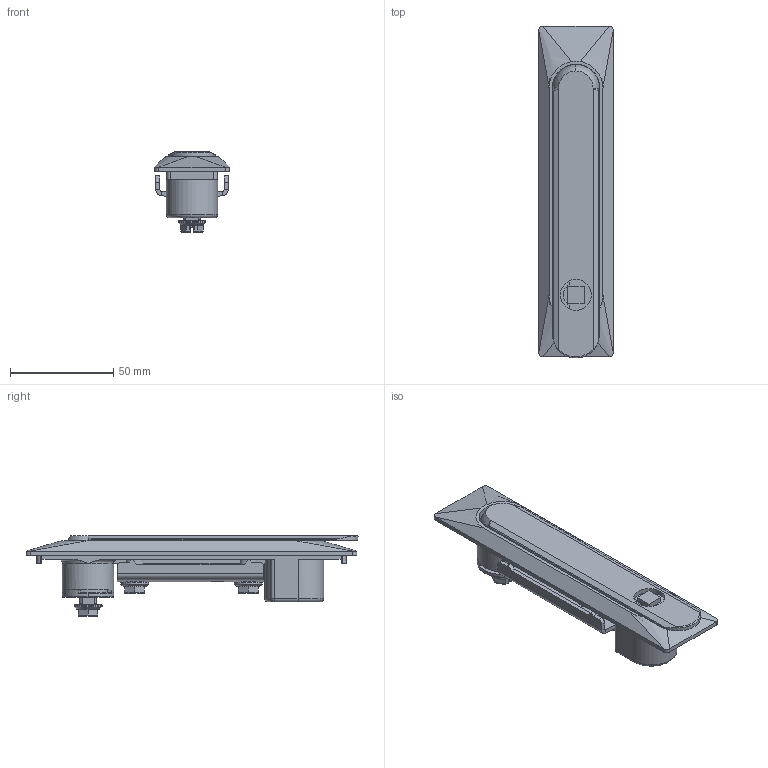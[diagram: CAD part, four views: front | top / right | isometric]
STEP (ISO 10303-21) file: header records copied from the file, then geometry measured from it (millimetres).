
FILE_DESCRIPTION((''),'2;1');
FILE_NAME('SCE-FSH4_ASM','2021-07-22T15:52:33',('chads'),('SAGINAW CONTROL & ENGINEERING'),'CREO PARAMETRIC BY PTC INC, 2017260','CREO PARAMETRIC BY PTC INC, 2017260','');
FILE_SCHEMA(('AUTOMOTIVE_DESIGN { 1 0 10303 214 1 1 1 1 }'));
Length unit declared in the file: millimetre
Products named in the file (9): 105082_BASE; 105082_WASHER; 105082_SHAFT; 105082_PIN; 105082_HANDLE; 105082_CAP; 105082_PLATE; 105082_SCREW; SCE-FSH4_ASM
Assembly tree (10 placements, depth 2):
  SCE-FSH4_ASM
    105082_BASE
    105082_WASHER
    105082_SHAFT
    105082_PIN
    105082_HANDLE
    105082_CAP
    105082_PLATE
    105082_SCREW  x3
Bounding box: 36 x 160.5 x 38.85 mm (x, y, z)
Volume: 550.9 mm3; surface area: 47528 mm2
Topology: 3 solids, 14 shells, 1085 faces, 2756 edges, 1686 vertices
Faces by surface type: plane 492, cylinder 426, torus 61, bspline 58, cone 28, sphere 20
Entity records: 27846 total; most frequent: CARTESIAN_POINT 5840, DIRECTION 3338, ORIENTED_EDGE 3288, EDGE_CURVE 1646, PRESENTATION_STYLE_ASSIGNMENT 1645, STYLED_ITEM 1645, CURVE_STYLE 1634, AXIS2_PLACEMENT_3D 1242
